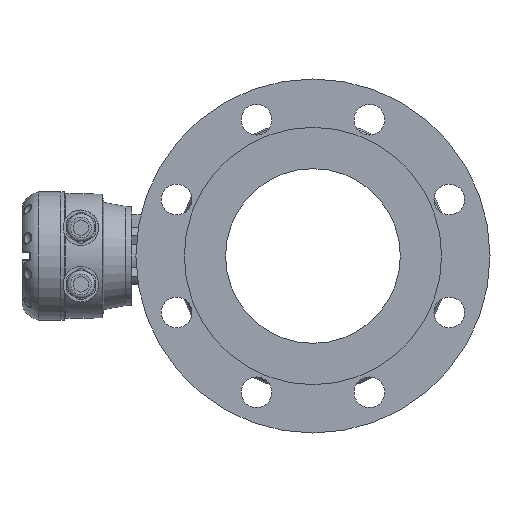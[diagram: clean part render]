
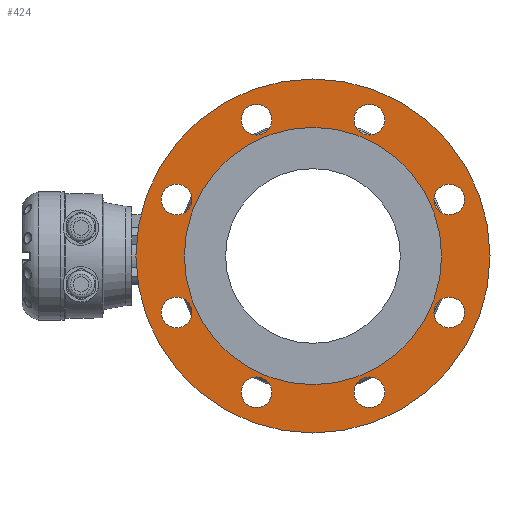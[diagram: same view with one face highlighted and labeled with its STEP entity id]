
A CAD part, left-side view. The second image highlights one B-rep face of the part: STEP entity #424.
In plain terms, the highlighted planar face has unit normal (-1, 0, 0).
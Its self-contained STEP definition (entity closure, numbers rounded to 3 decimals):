
#16 = AXIS2_PLACEMENT_3D ( 'NONE', #7689, #7691, #7692 ) ;
#27 = AXIS2_PLACEMENT_3D ( 'NONE', #7690, #7695, #7696 ) ;
#424 = ADVANCED_FACE ( 'NONE', ( #2340, #2346, #2348, #2350, #2344, #2339, #2347, #2349, #2351, #2345 ), #5657, .T. ) ;
#2339 = FACE_BOUND ( 'NONE', #9321, .T. ) ;
#2340 = FACE_BOUND ( 'NONE', #9339, .T. ) ;
#2344 = FACE_BOUND ( 'NONE', #9322, .T. ) ;
#2345 = FACE_BOUND ( 'NONE', #9316, .T. ) ;
#2346 = FACE_BOUND ( 'NONE', #9328, .T. ) ;
#2347 = FACE_BOUND ( 'NONE', #9320, .T. ) ;
#2348 = FACE_BOUND ( 'NONE', #9327, .T. ) ;
#2349 = FACE_BOUND ( 'NONE', #9318, .T. ) ;
#2350 = FACE_BOUND ( 'NONE', #9323, .T. ) ;
#2351 = FACE_OUTER_BOUND ( 'NONE', #9317, .T. ) ;
#5657 = PLANE ( 'NONE',  #12994 ) ;
#5664 = CARTESIAN_POINT ( 'NONE',  ( -139.805, -147.017, -10.543 ) ) ;
#5669 = DIRECTION ( 'NONE',  ( -1., 0., 0. ) ) ;
#5670 = DIRECTION ( 'NONE',  ( 0., 0., -1. ) ) ;
#6805 = CARTESIAN_POINT ( 'NONE',  ( -139.805, -147.017, -10.543 ) ) ;
#6806 = DIRECTION ( 'NONE',  ( 1., 0., 0. ) ) ;
#6807 = DIRECTION ( 'NONE',  ( 0., 0., -1. ) ) ;
#6964 = CARTESIAN_POINT ( 'NONE',  ( -139.805, -31.532, -58.378 ) ) ;
#6967 = CARTESIAN_POINT ( 'NONE',  ( -139.805, -194.852, -126.028 ) ) ;
#6971 = DIRECTION ( 'NONE',  ( -1., 0., 0. ) ) ;
#6972 = DIRECTION ( 'NONE',  ( 0., 0., 1. ) ) ;
#6974 = DIRECTION ( 'NONE',  ( -1., 0., 0. ) ) ;
#6975 = DIRECTION ( 'NONE',  ( 0., 0., 1. ) ) ;
#6986 = CARTESIAN_POINT ( 'NONE',  ( -139.805, -99.181, -126.028 ) ) ;
#6988 = CARTESIAN_POINT ( 'NONE',  ( -139.805, -262.502, -58.378 ) ) ;
#6989 = DIRECTION ( 'NONE',  ( -1., 0., 0. ) ) ;
#6990 = DIRECTION ( 'NONE',  ( 0., 0., 1. ) ) ;
#6997 = DIRECTION ( 'NONE',  ( -1., 0., 0. ) ) ;
#6998 = DIRECTION ( 'NONE',  ( 0., 0., 1. ) ) ;
#7002 = CARTESIAN_POINT ( 'NONE',  ( -139.805, -262.502, 37.293 ) ) ;
#7009 = DIRECTION ( 'NONE',  ( -1., 0., 0. ) ) ;
#7010 = DIRECTION ( 'NONE',  ( 0., 0., 1. ) ) ;
#7410 = CARTESIAN_POINT ( 'NONE',  ( -139.805, -99.181, 104.942 ) ) ;
#7412 = DIRECTION ( 'NONE',  ( -1., 0., 0. ) ) ;
#7413 = DIRECTION ( 'NONE',  ( 0., 0., 1. ) ) ;
#7578 = CARTESIAN_POINT ( 'NONE',  ( -139.805, -31.532, 37.293 ) ) ;
#7579 = DIRECTION ( 'NONE',  ( -1., 0., 0. ) ) ;
#7580 = DIRECTION ( 'NONE',  ( 0., 0., 1. ) ) ;
#7689 = CARTESIAN_POINT ( 'NONE',  ( -139.805, -194.852, 104.942 ) ) ;
#7690 = CARTESIAN_POINT ( 'NONE',  ( -139.805, -147.017, -10.543 ) ) ;
#7691 = DIRECTION ( 'NONE',  ( -1., 0., 0. ) ) ;
#7692 = DIRECTION ( 'NONE',  ( 0., 0., 1. ) ) ;
#7695 = DIRECTION ( 'NONE',  ( 1., 0., 0. ) ) ;
#7696 = DIRECTION ( 'NONE',  ( 0., 0., -1. ) ) ;
#8205 = VERTEX_POINT ( 'NONE', #8206 ) ;
#8206 = CARTESIAN_POINT ( 'NONE',  ( -139.805, -147.017, -119.543 ) ) ;
#8233 = VERTEX_POINT ( 'NONE', #8234 ) ;
#8234 = CARTESIAN_POINT ( 'NONE',  ( -139.805, -31.532, -45.378 ) ) ;
#8235 = VERTEX_POINT ( 'NONE', #8236 ) ;
#8236 = CARTESIAN_POINT ( 'NONE',  ( -139.805, -194.852, -113.028 ) ) ;
#8237 = VERTEX_POINT ( 'NONE', #8238 ) ;
#8238 = CARTESIAN_POINT ( 'NONE',  ( -139.805, -99.181, -113.028 ) ) ;
#8241 = VERTEX_POINT ( 'NONE', #8242 ) ;
#8242 = CARTESIAN_POINT ( 'NONE',  ( -139.805, -262.502, -45.378 ) ) ;
#8249 = VERTEX_POINT ( 'NONE', #8250 ) ;
#8250 = CARTESIAN_POINT ( 'NONE',  ( -139.805, -262.502, 50.293 ) ) ;
#8265 = VERTEX_POINT ( 'NONE', #8266 ) ;
#8266 = CARTESIAN_POINT ( 'NONE',  ( -139.805, -99.181, 117.942 ) ) ;
#8271 = VERTEX_POINT ( 'NONE', #8272 ) ;
#8272 = CARTESIAN_POINT ( 'NONE',  ( -139.805, -31.532, 50.293 ) ) ;
#8273 = VERTEX_POINT ( 'NONE', #8274 ) ;
#8274 = CARTESIAN_POINT ( 'NONE',  ( -139.805, -194.852, 117.942 ) ) ;
#8277 = VERTEX_POINT ( 'NONE', #8278 ) ;
#8278 = CARTESIAN_POINT ( 'NONE',  ( -139.805, -147.017, -160.543 ) ) ;
#8952 = ORIENTED_EDGE ( 'NONE', *, *, #12551, .F. ) ;
#8953 = ORIENTED_EDGE ( 'NONE', *, *, #12492, .F. ) ;
#8954 = ORIENTED_EDGE ( 'NONE', *, *, #12597, .F. ) ;
#8955 = ORIENTED_EDGE ( 'NONE', *, *, #12353, .F. ) ;
#8956 = ORIENTED_EDGE ( 'NONE', *, *, #12349, .F. ) ;
#8957 = ORIENTED_EDGE ( 'NONE', *, *, #12340, .F. ) ;
#8958 = ORIENTED_EDGE ( 'NONE', *, *, #12346, .F. ) ;
#8959 = ORIENTED_EDGE ( 'NONE', *, *, #12339, .F. ) ;
#8960 = ORIENTED_EDGE ( 'NONE', *, *, #12599, .F. ) ;
#8961 = ORIENTED_EDGE ( 'NONE', *, *, #12293, .T. ) ;
#9316 = EDGE_LOOP ( 'NONE', ( #8961 ) ) ;
#9317 = EDGE_LOOP ( 'NONE', ( #8960 ) ) ;
#9318 = EDGE_LOOP ( 'NONE', ( #8959 ) ) ;
#9320 = EDGE_LOOP ( 'NONE', ( #8958 ) ) ;
#9321 = EDGE_LOOP ( 'NONE', ( #8957 ) ) ;
#9322 = EDGE_LOOP ( 'NONE', ( #8956 ) ) ;
#9323 = EDGE_LOOP ( 'NONE', ( #8955 ) ) ;
#9327 = EDGE_LOOP ( 'NONE', ( #8954 ) ) ;
#9328 = EDGE_LOOP ( 'NONE', ( #8953 ) ) ;
#9339 = EDGE_LOOP ( 'NONE', ( #8952 ) ) ;
#12293 = EDGE_CURVE ( 'NONE', #8205, #8205, #15353, .T. ) ;
#12339 = EDGE_CURVE ( 'NONE', #8233, #8233, #15421, .T. ) ;
#12340 = EDGE_CURVE ( 'NONE', #8235, #8235, #15422, .T. ) ;
#12346 = EDGE_CURVE ( 'NONE', #8237, #8237, #15432, .T. ) ;
#12349 = EDGE_CURVE ( 'NONE', #8241, #8241, #15435, .T. ) ;
#12353 = EDGE_CURVE ( 'NONE', #8249, #8249, #15439, .T. ) ;
#12492 = EDGE_CURVE ( 'NONE', #8265, #8265, #15649, .T. ) ;
#12551 = EDGE_CURVE ( 'NONE', #8271, #8271, #15743, .T. ) ;
#12597 = EDGE_CURVE ( 'NONE', #8273, #8273, #15814, .T. ) ;
#12599 = EDGE_CURVE ( 'NONE', #8277, #8277, #15817, .T. ) ;
#12994 = AXIS2_PLACEMENT_3D ( 'NONE', #5664, #5669, #5670 ) ;
#13187 = AXIS2_PLACEMENT_3D ( 'NONE', #6805, #6806, #6807 ) ;
#13200 = AXIS2_PLACEMENT_3D ( 'NONE', #6986, #6989, #6990 ) ;
#13206 = AXIS2_PLACEMENT_3D ( 'NONE', #6964, #6971, #6972 ) ;
#13207 = AXIS2_PLACEMENT_3D ( 'NONE', #6967, #6974, #6975 ) ;
#13212 = AXIS2_PLACEMENT_3D ( 'NONE', #6988, #6997, #6998 ) ;
#13216 = AXIS2_PLACEMENT_3D ( 'NONE', #7002, #7009, #7010 ) ;
#13247 = AXIS2_PLACEMENT_3D ( 'NONE', #7410, #7412, #7413 ) ;
#13255 = AXIS2_PLACEMENT_3D ( 'NONE', #7578, #7579, #7580 ) ;
#15353 = CIRCLE ( 'NONE', #13187, 109. ) ;
#15421 = CIRCLE ( 'NONE', #13206, 13. ) ;
#15422 = CIRCLE ( 'NONE', #13207, 13. ) ;
#15432 = CIRCLE ( 'NONE', #13200, 13. ) ;
#15435 = CIRCLE ( 'NONE', #13212, 13. ) ;
#15439 = CIRCLE ( 'NONE', #13216, 13. ) ;
#15649 = CIRCLE ( 'NONE', #13247, 13. ) ;
#15743 = CIRCLE ( 'NONE', #13255, 13. ) ;
#15814 = CIRCLE ( 'NONE', #16, 13. ) ;
#15817 = CIRCLE ( 'NONE', #27, 150. ) ;
